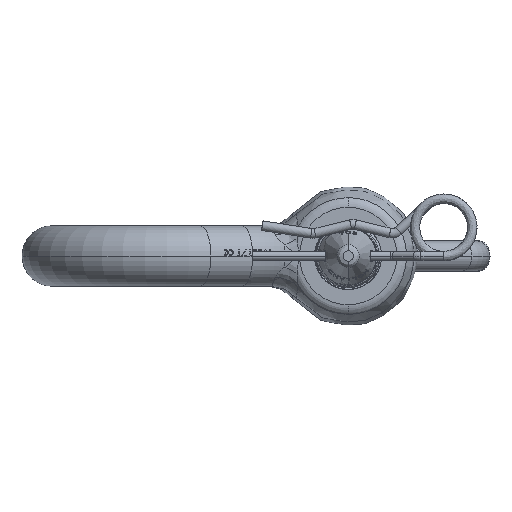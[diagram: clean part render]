
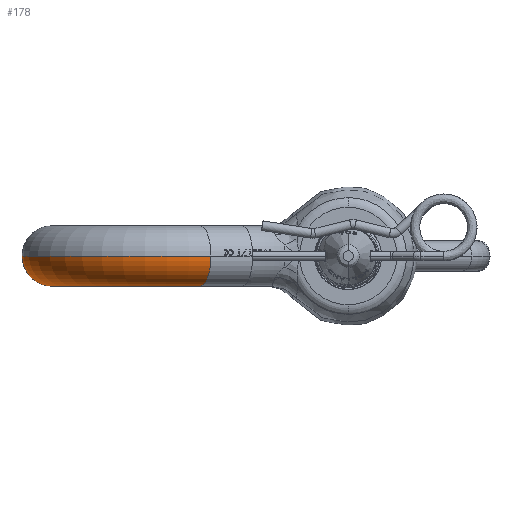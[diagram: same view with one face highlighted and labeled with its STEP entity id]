
A CAD part, left-side view. The second image highlights one B-rep face of the part: STEP entity #178.
In plain terms, the highlighted toroidal (fillet/blend) face has major radius 68.5 mm and minor radius 19 mm.
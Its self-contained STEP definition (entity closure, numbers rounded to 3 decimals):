
#178=ADVANCED_FACE('',(#1180),#1181,.T.);
#1180=FACE_OUTER_BOUND('',#3226,.T.);
#1181=TOROIDAL_SURFACE('',#3227,68.5,19.0);
#3226=EDGE_LOOP('',(#19372,#19373,#19374,#19375));
#3227=AXIS2_PLACEMENT_3D('',#19376,#19377,#19378);
#19372=ORIENTED_EDGE('',*,*,#26547,.F.);
#19373=ORIENTED_EDGE('',*,*,#26410,.F.);
#19374=ORIENTED_EDGE('',*,*,#26548,.F.);
#19375=ORIENTED_EDGE('',*,*,#26549,.T.);
#19376=CARTESIAN_POINT('',(0.0,0.0,0.0));
#19377=DIRECTION('',(0.0,-0.0,1.0));
#19378=DIRECTION('',(0.,1.0,0.0));
#26410=EDGE_CURVE('',#29006,#29008,#29009,.T.);
#26547=EDGE_CURVE('',#29008,#29280,#29281,.T.);
#26548=EDGE_CURVE('',#29282,#29006,#29283,.T.);
#26549=EDGE_CURVE('',#29282,#29280,#29284,.T.);
#29006=VERTEX_POINT('',#33462);
#29008=VERTEX_POINT('',#33464);
#29009=CIRCLE('',#33465,19.0);
#29280=VERTEX_POINT('',#34888);
#29281=CIRCLE('',#34889,87.5);
#29282=VERTEX_POINT('',#34890);
#29283=CIRCLE('',#34891,49.5);
#29284=CIRCLE('',#34892,19.0);
#33462=CARTESIAN_POINT('',(0.,49.5,0.));
#33464=CARTESIAN_POINT('',(0.,87.5,0.));
#33465=AXIS2_PLACEMENT_3D('',#60632,#60633,#60634);
#34888=CARTESIAN_POINT('',(-81.744,-31.211,0.));
#34889=AXIS2_PLACEMENT_3D('',#60827,#60828,#60829);
#34890=CARTESIAN_POINT('',(-46.244,-17.656,0.));
#34891=AXIS2_PLACEMENT_3D('',#60830,#60831,#60832);
#34892=AXIS2_PLACEMENT_3D('',#60833,#60834,#60835);
#60632=CARTESIAN_POINT('',(0.,68.5,0.0));
#60633=DIRECTION('',(1.0,0.,-0.0));
#60634=DIRECTION('',(0.,1.0,0.0));
#60827=CARTESIAN_POINT('',(0.0,0.0,0.));
#60828=DIRECTION('',(0.0,-0.0,1.0));
#60829=DIRECTION('',(1.0,0.0,-0.0));
#60830=CARTESIAN_POINT('',(0.0,0.0,0.));
#60831=DIRECTION('',(0.0,0.0,-1.0));
#60832=DIRECTION('',(0.,1.0,0.0));
#60833=CARTESIAN_POINT('',(-63.994,-24.434,0.0));
#60834=DIRECTION('',(-0.357,0.934,0.0));
#60835=DIRECTION('',(0.0,0.0,-1.0));
